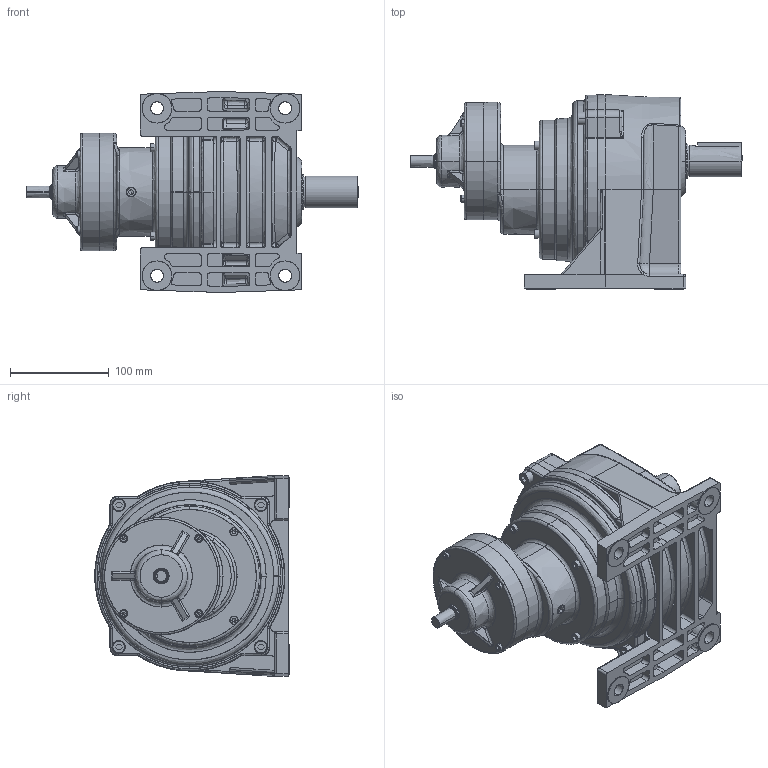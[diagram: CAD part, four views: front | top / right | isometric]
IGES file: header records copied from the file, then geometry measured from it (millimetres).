
Start section: SolidWorks IGES file using analytic representation for surfaces
Bounding box: 337 x 197.5 x 204 mm (x, y, z)
Surface area: 421681.9 mm2 (no closed solid volume)
Topology: 0 solids, 0 shells, 1072 faces, 13714 edges, 13688 vertices
Faces by surface type: bspline 612, revolution 460
